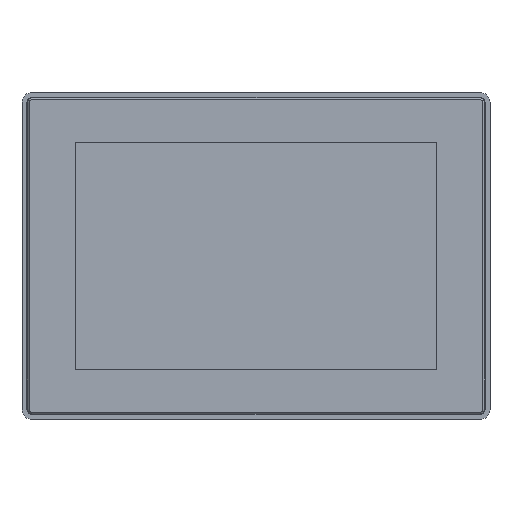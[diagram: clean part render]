
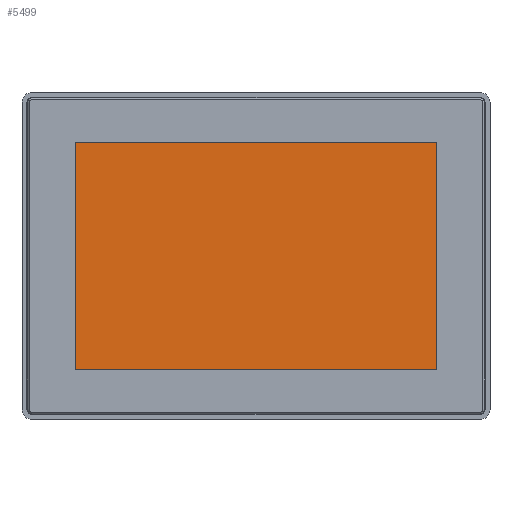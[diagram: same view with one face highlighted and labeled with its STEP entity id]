
A CAD part, top view. The second image highlights one B-rep face of the part: STEP entity #5499.
In plain terms, the highlighted planar face has unit normal (0, 0, 1).
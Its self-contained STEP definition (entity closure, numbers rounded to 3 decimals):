
#5499 = ADVANCED_FACE ( 'NONE', ( #77483 ), #178914, .T. ) ;
#6597 = LINE ( 'NONE', #136991, #189894 ) ;
#6624 = ORIENTED_EDGE ( 'NONE', *, *, #161282, .F. ) ;
#18958 = DIRECTION ( 'NONE',  ( 0., -1., 0. ) ) ;
#27068 = EDGE_LOOP ( 'NONE', ( #146038, #76006, #6624, #86344 ) ) ;
#27128 = CARTESIAN_POINT ( 'NONE',  ( 109., 68.5, 8.5 ) ) ;
#36532 = DIRECTION ( 'NONE',  ( 1., 0., 0. ) ) ;
#37082 = CARTESIAN_POINT ( 'NONE',  ( 109., 68.5, 8.5 ) ) ;
#37583 = DIRECTION ( 'NONE',  ( -1., 0., 0. ) ) ;
#42634 = VECTOR ( 'NONE', #18958, 1000. ) ;
#46711 = CARTESIAN_POINT ( 'NONE',  ( -109., 68.5, 8.5 ) ) ;
#54189 = VECTOR ( 'NONE', #36532, 1000. ) ;
#55556 = EDGE_CURVE ( 'NONE', #182680, #188092, #82036, .T. ) ;
#59314 = CARTESIAN_POINT ( 'NONE',  ( -109., 68.5, 8.5 ) ) ;
#61406 = CARTESIAN_POINT ( 'NONE',  ( -137.7, -95.2, 8.5 ) ) ;
#63539 = DIRECTION ( 'NONE',  ( 0., 0., 1. ) ) ;
#76006 = ORIENTED_EDGE ( 'NONE', *, *, #193830, .F. ) ;
#77483 = FACE_OUTER_BOUND ( 'NONE', #27068, .T. ) ;
#82036 = LINE ( 'NONE', #37082, #42634 ) ;
#86344 = ORIENTED_EDGE ( 'NONE', *, *, #55556, .F. ) ;
#86746 = CARTESIAN_POINT ( 'NONE',  ( -109., 68.5, 8.5 ) ) ;
#103044 = CARTESIAN_POINT ( 'NONE',  ( -109., -68.5, 8.5 ) ) ;
#111907 = DIRECTION ( 'NONE',  ( 0., 1., 0. ) ) ;
#112069 = CARTESIAN_POINT ( 'NONE',  ( 109., -68.5, 8.5 ) ) ;
#136991 = CARTESIAN_POINT ( 'NONE',  ( -109., -68.5, 8.5 ) ) ;
#146038 = ORIENTED_EDGE ( 'NONE', *, *, #210929, .F. ) ;
#149718 = VECTOR ( 'NONE', #111907, 1000. ) ;
#157915 = LINE ( 'NONE', #46711, #149718 ) ;
#161282 = EDGE_CURVE ( 'NONE', #188092, #201989, #6597, .T. ) ;
#164798 = LINE ( 'NONE', #86746, #54189 ) ;
#178914 = PLANE ( 'NONE',  #185191 ) ;
#182680 = VERTEX_POINT ( 'NONE', #27128 ) ;
#185191 = AXIS2_PLACEMENT_3D ( 'NONE', #61406, #63539, #194933 ) ;
#188092 = VERTEX_POINT ( 'NONE', #112069 ) ;
#189894 = VECTOR ( 'NONE', #37583, 1000. ) ;
#193109 = VERTEX_POINT ( 'NONE', #59314 ) ;
#193830 = EDGE_CURVE ( 'NONE', #201989, #193109, #157915, .T. ) ;
#194933 = DIRECTION ( 'NONE',  ( 1., 0., 0. ) ) ;
#201989 = VERTEX_POINT ( 'NONE', #103044 ) ;
#210929 = EDGE_CURVE ( 'NONE', #193109, #182680, #164798, .T. ) ;
